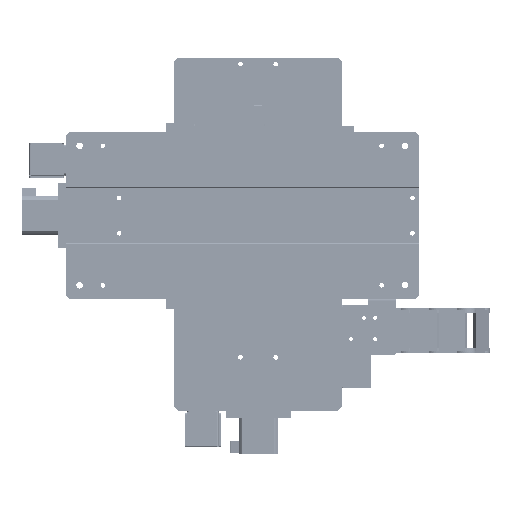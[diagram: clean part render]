
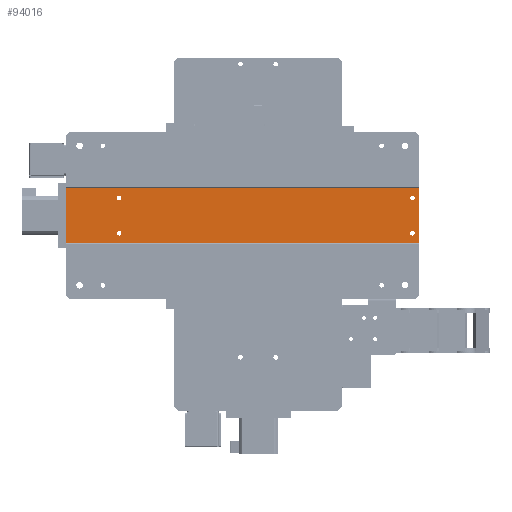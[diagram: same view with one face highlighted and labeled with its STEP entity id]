
A CAD part, front view. The second image highlights one B-rep face of the part: STEP entity #94016.
In plain terms, the highlighted planar face has unit normal (0, -1, 0).
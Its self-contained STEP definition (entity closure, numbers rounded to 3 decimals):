
#1220 = LINE ( 'NONE', #86440, #91156 ) ;
#1953 = CARTESIAN_POINT ( 'NONE',  ( 228.341, 2.614, -30.676 ) ) ;
#3160 = ORIENTED_EDGE ( 'NONE', *, *, #28591, .F. ) ;
#4417 = CARTESIAN_POINT ( 'NONE',  ( -94.159, 2.614, 18.324 ) ) ;
#6070 = CARTESIAN_POINT ( 'NONE',  ( -94.159, 2.614, -19.676 ) ) ;
#6579 = DIRECTION ( 'NONE',  ( 0., 0., 1. ) ) ;
#10337 = VERTEX_POINT ( 'NONE', #20660 ) ;
#10621 = ORIENTED_EDGE ( 'NONE', *, *, #29132, .T. ) ;
#11648 = EDGE_CURVE ( 'NONE', #79765, #79765, #100460, .T. ) ;
#12261 = CARTESIAN_POINT ( 'NONE',  ( -151.659, 2.614, -30.676 ) ) ;
#13803 = EDGE_LOOP ( 'NONE', ( #3160 ) ) ;
#15428 = ORIENTED_EDGE ( 'NONE', *, *, #26730, .T. ) ;
#15822 = AXIS2_PLACEMENT_3D ( 'NONE', #4417, #68833, #57601 ) ;
#17934 = AXIS2_PLACEMENT_3D ( 'NONE', #83821, #35024, #76016 ) ;
#18459 = DIRECTION ( 'NONE',  ( 0., 0., 1. ) ) ;
#18982 = CARTESIAN_POINT ( 'NONE',  ( 228.341, 2.614, -30.676 ) ) ;
#20660 = CARTESIAN_POINT ( 'NONE',  ( -151.659, 2.614, 29.324 ) ) ;
#20698 = EDGE_LOOP ( 'NONE', ( #85492 ) ) ;
#22976 = AXIS2_PLACEMENT_3D ( 'NONE', #18982, #89613, #18459 ) ;
#23317 = CARTESIAN_POINT ( 'NONE',  ( 228.341, 2.614, 29.324 ) ) ;
#25031 = EDGE_CURVE ( 'NONE', #35044, #92975, #28815, .T. ) ;
#25217 = FACE_BOUND ( 'NONE', #61732, .T. ) ;
#25232 = VERTEX_POINT ( 'NONE', #56927 ) ;
#25770 = ORIENTED_EDGE ( 'NONE', *, *, #79659, .F. ) ;
#26730 = EDGE_CURVE ( 'NONE', #35044, #10337, #85836, .T. ) ;
#27999 = EDGE_LOOP ( 'NONE', ( #10621, #42694, #30810, #15428 ) ) ;
#28591 = EDGE_CURVE ( 'NONE', #72745, #72745, #52658, .T. ) ;
#28815 = LINE ( 'NONE', #84392, #87318 ) ;
#29132 = EDGE_CURVE ( 'NONE', #10337, #72085, #57993, .T. ) ;
#30549 = AXIS2_PLACEMENT_3D ( 'NONE', #6070, #69452, #6579 ) ;
#30810 = ORIENTED_EDGE ( 'NONE', *, *, #25031, .F. ) ;
#31736 = EDGE_CURVE ( 'NONE', #92975, #72085, #1220, .T. ) ;
#32769 = VECTOR ( 'NONE', #88671, 1000. ) ;
#33764 = CARTESIAN_POINT ( 'NONE',  ( 221.341, 2.614, 20.824 ) ) ;
#35024 = DIRECTION ( 'NONE',  ( 0., -1., 0. ) ) ;
#35044 = VERTEX_POINT ( 'NONE', #23317 ) ;
#37113 = DIRECTION ( 'NONE',  ( 0., 0., -1. ) ) ;
#39673 = DIRECTION ( 'NONE',  ( -1., 0., 0. ) ) ;
#40307 = CARTESIAN_POINT ( 'NONE',  ( -94.159, 2.614, 20.824 ) ) ;
#40513 = EDGE_LOOP ( 'NONE', ( #90613 ) ) ;
#42694 = ORIENTED_EDGE ( 'NONE', *, *, #31736, .F. ) ;
#46421 = VERTEX_POINT ( 'NONE', #52702 ) ;
#49645 = FACE_BOUND ( 'NONE', #40513, .T. ) ;
#51168 = FACE_BOUND ( 'NONE', #20698, .T. ) ;
#52658 = CIRCLE ( 'NONE', #54294, 2.5 ) ;
#52702 = CARTESIAN_POINT ( 'NONE',  ( 221.341, 2.614, -17.176 ) ) ;
#54294 = AXIS2_PLACEMENT_3D ( 'NONE', #55042, #70630, #86734 ) ;
#55042 = CARTESIAN_POINT ( 'NONE',  ( 221.341, 2.614, 18.324 ) ) ;
#56927 = CARTESIAN_POINT ( 'NONE',  ( -94.159, 2.614, -17.176 ) ) ;
#57601 = DIRECTION ( 'NONE',  ( 0., 0., 1. ) ) ;
#57993 = LINE ( 'NONE', #65272, #32769 ) ;
#59348 = VECTOR ( 'NONE', #78537, 1000. ) ;
#61732 = EDGE_LOOP ( 'NONE', ( #25770 ) ) ;
#62966 = CARTESIAN_POINT ( 'NONE',  ( 228.341, 2.614, 29.324 ) ) ;
#65272 = CARTESIAN_POINT ( 'NONE',  ( -151.659, 2.614, -30.676 ) ) ;
#68833 = DIRECTION ( 'NONE',  ( 0., -1., 0. ) ) ;
#69452 = DIRECTION ( 'NONE',  ( 0., -1., 0. ) ) ;
#70630 = DIRECTION ( 'NONE',  ( 0., -1., 0. ) ) ;
#72085 = VERTEX_POINT ( 'NONE', #12261 ) ;
#72745 = VERTEX_POINT ( 'NONE', #33764 ) ;
#74490 = EDGE_CURVE ( 'NONE', #25232, #25232, #86913, .T. ) ;
#76016 = DIRECTION ( 'NONE',  ( 0., 0., 1. ) ) ;
#78537 = DIRECTION ( 'NONE',  ( -1., 0., 0. ) ) ;
#79659 = EDGE_CURVE ( 'NONE', #46421, #46421, #84280, .T. ) ;
#79765 = VERTEX_POINT ( 'NONE', #40307 ) ;
#81301 = FACE_OUTER_BOUND ( 'NONE', #27999, .T. ) ;
#83821 = CARTESIAN_POINT ( 'NONE',  ( 221.341, 2.614, -19.676 ) ) ;
#84280 = CIRCLE ( 'NONE', #17934, 2.5 ) ;
#84392 = CARTESIAN_POINT ( 'NONE',  ( 228.341, 2.614, -30.676 ) ) ;
#85492 = ORIENTED_EDGE ( 'NONE', *, *, #11648, .F. ) ;
#85836 = LINE ( 'NONE', #62966, #59348 ) ;
#86440 = CARTESIAN_POINT ( 'NONE',  ( 228.341, 2.614, -30.676 ) ) ;
#86734 = DIRECTION ( 'NONE',  ( 0., 0., 1. ) ) ;
#86913 = CIRCLE ( 'NONE', #30549, 2.5 ) ;
#87318 = VECTOR ( 'NONE', #37113, 1000. ) ;
#88614 = FACE_BOUND ( 'NONE', #13803, .T. ) ;
#88671 = DIRECTION ( 'NONE',  ( 0., 0., -1. ) ) ;
#89613 = DIRECTION ( 'NONE',  ( 0., 1., 0. ) ) ;
#90132 = PLANE ( 'NONE',  #22976 ) ;
#90613 = ORIENTED_EDGE ( 'NONE', *, *, #74490, .F. ) ;
#91156 = VECTOR ( 'NONE', #39673, 1000. ) ;
#92975 = VERTEX_POINT ( 'NONE', #1953 ) ;
#94016 = ADVANCED_FACE ( 'NONE', ( #51168, #25217, #81301, #49645, #88614 ), #90132, .F. ) ;
#100460 = CIRCLE ( 'NONE', #15822, 2.5 ) ;
